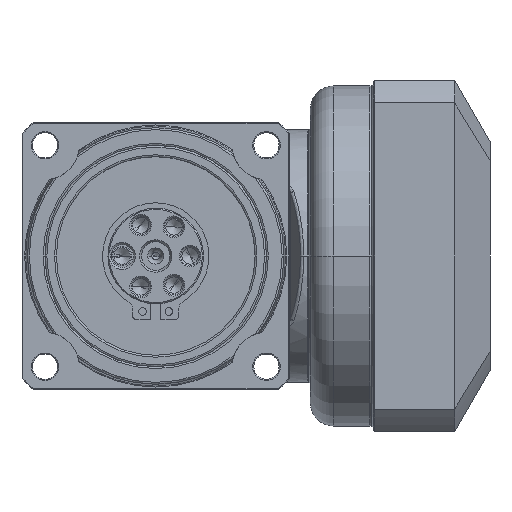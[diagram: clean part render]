
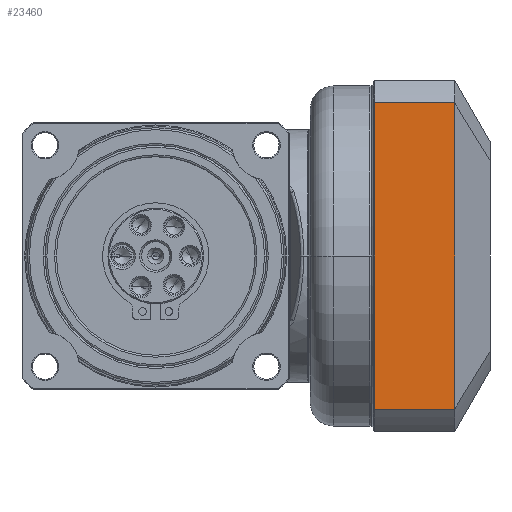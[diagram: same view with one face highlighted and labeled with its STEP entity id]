
A CAD part, left-side view. The second image highlights one B-rep face of the part: STEP entity #23460.
In plain terms, the highlighted planar face has unit normal (-1, 0, 0) as drawn and (0, -1, 0) by its records, which use the part's own axes.
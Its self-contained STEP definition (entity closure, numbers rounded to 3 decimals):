
#22275=CARTESIAN_POINT('',(40.062,-46.,23.762));
#22284=DIRECTION('',(1.,0.,0.));
#22285=VECTOR('',#22284,80.125);
#22286=CARTESIAN_POINT('',(-40.062,-46.,23.762));
#22287=LINE('',#22286,#22285);
#22288=DIRECTION('',(0.,0.,1.));
#22289=VECTOR('',#22288,20.962);
#22290=CARTESIAN_POINT('',(40.062,-46.,
2.8));
#22291=LINE('',#22290,#22289);
#22292=DIRECTION('',(1.,0.,0.));
#22293=VECTOR('',#22292,80.125);
#22294=CARTESIAN_POINT('',(-40.062,-46.,
2.8));
#22295=LINE('',#22294,#22293);
#22296=DIRECTION('',(0.,0.,1.));
#22297=VECTOR('',#22296,20.962);
#22298=CARTESIAN_POINT('',(-40.062,-46.,
2.8));
#22299=LINE('',#22298,#22297);
#22732=CARTESIAN_POINT('',(-40.062,-46.,2.8));
#22734=VERTEX_POINT('',#22732);
#22737=CARTESIAN_POINT('',(40.062,-46.,
2.8));
#22738=VERTEX_POINT('',#22737);
#22784=CARTESIAN_POINT('',(-40.062,-46.,23.762));
#22786=VERTEX_POINT('',#22784);
#22794=VERTEX_POINT('',#22275);
#23446=CARTESIAN_POINT('',(-46.,-46.,0.));
#23447=DIRECTION('',(0.,-1.,0.));
#23448=DIRECTION('',(1.,0.,0.));
#23449=AXIS2_PLACEMENT_3D('',#23446,#23447,#23448);
#23450=PLANE('',#23449);
#23451=ORIENTED_EDGE('',*,*,#23439,.T.);
#23453=ORIENTED_EDGE('',*,*,#23452,.F.);
#23455=ORIENTED_EDGE('',*,*,#23454,.F.);
#23457=ORIENTED_EDGE('',*,*,#23456,.T.);
#23458=EDGE_LOOP('',(#23451,#23453,#23455,#23457));
#23459=FACE_OUTER_BOUND('',#23458,.F.);
#23460=ADVANCED_FACE('',(#23459),#23450,.T.);
#23439=EDGE_CURVE('',#22786,#22794,#22287,.T.);
#23452=EDGE_CURVE('',#22738,#22794,#22291,.T.);
#23454=EDGE_CURVE('',#22734,#22738,#22295,.T.);
#23456=EDGE_CURVE('',#22734,#22786,#22299,.T.);
